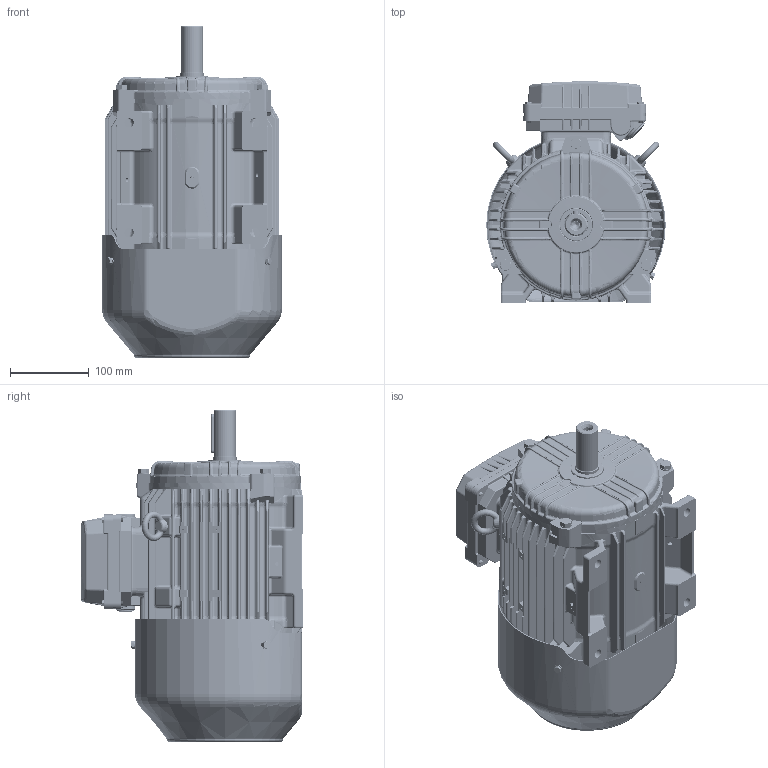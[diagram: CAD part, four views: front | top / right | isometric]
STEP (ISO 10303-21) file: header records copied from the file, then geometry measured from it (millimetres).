
FILE_DESCRIPTION (( 'STEP AP203' ), '1' );
FILE_NAME ('0210000293_RevA.STEP', '2023-05-12T12:51:42', ( '' ), ( '' ), 'SwSTEP 2.0', 'SolidWorks 2021', '' );
FILE_SCHEMA (( 'CONFIG_CONTROL_DESIGN' ));
Products named in the file (1): 0210000293_RevA
Bounding box: 228.4 x 283.38 x 422.5 mm (x, y, z)
Volume: 2752665.7 mm3; surface area: 1180226.3 mm2
Topology: 35 solids, 35 shells, 7857 faces, 19365 edges, 11502 vertices
Faces by surface type: cylinder 2468, bspline 2257, plane 1333, torus 824, cone 796, sphere 179
Entity records: 306373 total; most frequent: CARTESIAN_POINT 136567, ORIENTED_EDGE 38314, DIRECTION 32798, EDGE_CURVE 19157, AXIS2_PLACEMENT_3D 13627, VERTEX_POINT 11488, EDGE_LOOP 8391, CIRCLE 8026
